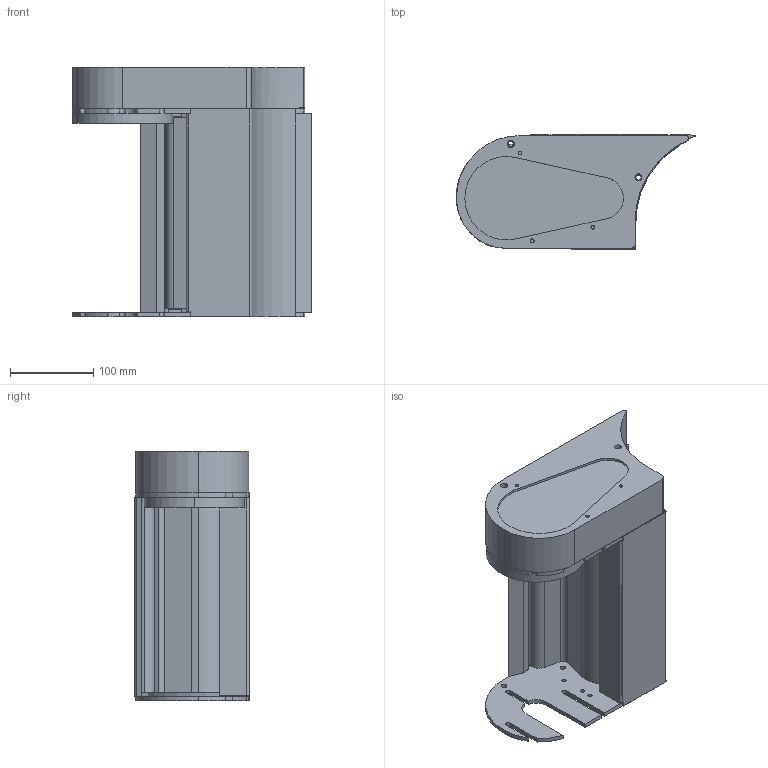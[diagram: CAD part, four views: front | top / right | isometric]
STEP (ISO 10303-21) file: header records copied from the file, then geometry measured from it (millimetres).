
FILE_DESCRIPTION (( 'STEP AP214' ), '1' );
FILE_NAME ('F2 750 TMDM NTB GP.step', '2017-04-05T07:35:25', ( '' ), ( '' ), 'SwSTEP 2.0', 'SolidWorks 2015', '' );
FILE_SCHEMA (( 'AUTOMOTIVE_DESIGN' ));
Length unit declared in the file: millimetre
Products named in the file (1): F2 750 TMDM NTB GP
Bounding box: 286.35 x 137.58 x 299 mm (x, y, z)
Volume: 2890020.9 mm3; surface area: 568313.8 mm2
Topology: 9 solids, 9 shells, 376 faces, 1066 edges, 710 vertices
Faces by surface type: cylinder 203, plane 173
Entity records: 12803 total; most frequent: DIRECTION 2230, CARTESIAN_POINT 2153, ORIENTED_EDGE 2132, EDGE_CURVE 1066, AXIS2_PLACEMENT_3D 787, VERTEX_POINT 710, VECTOR 656, LINE 656
